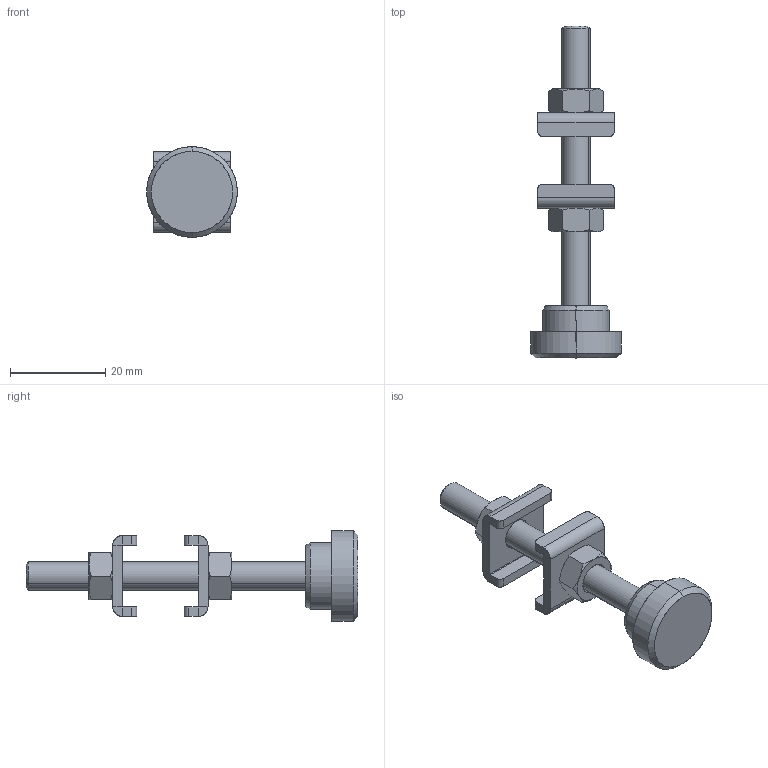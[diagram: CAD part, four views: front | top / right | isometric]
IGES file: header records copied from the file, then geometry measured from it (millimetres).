
Start section: SolidWorks IGES file using analytic representation for surfaces
Global section: file name: C:\Projetos\Ponteiras\ARP\ARP-M6.IGS; native system: SolidWorks 2012; preprocessor: SolidWorks 2012; author: Ricardo; date: 140129.133249; units: millimetre
Bounding box: 19.05 x 69.7 x 19.05 mm (x, y, z)
Surface area: 5169.7 mm2 (no closed solid volume)
Topology: 0 solids, 0 shells, 136 faces, 1540 edges, 1538 vertices
Faces by surface type: revolution 72, bspline 64
